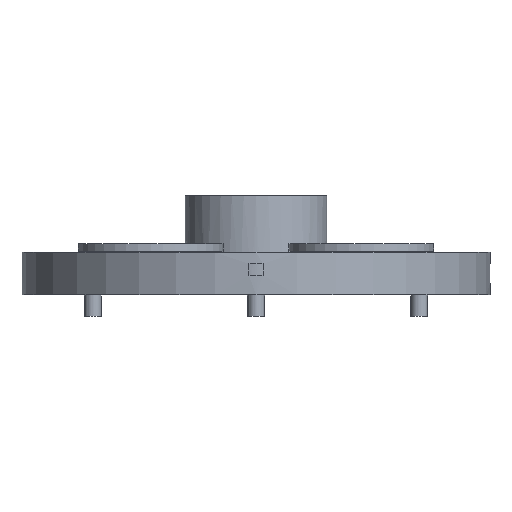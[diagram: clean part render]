
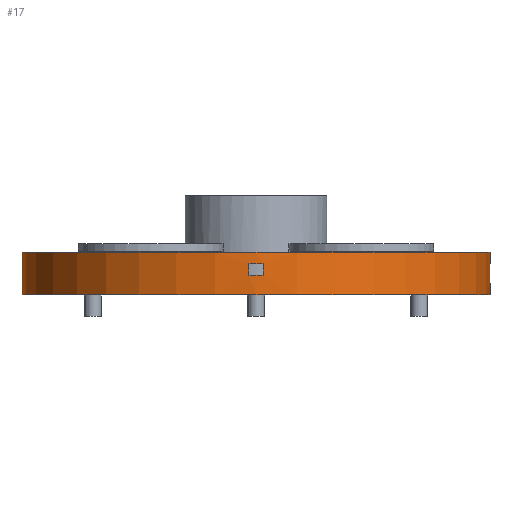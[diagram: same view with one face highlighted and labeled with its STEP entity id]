
A CAD part, front view. The second image highlights one B-rep face of the part: STEP entity #17.
In plain terms, the highlighted cylindrical face has radius 165 mm (diameter 330 mm), a full revolution.
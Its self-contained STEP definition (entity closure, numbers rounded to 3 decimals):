
#17 = ADVANCED_FACE('',(#18,#104,#140,#176,#212),#248,.T.);
#18 = FACE_BOUND('',#19,.T.);
#19 = EDGE_LOOP('',(#20,#30,#37,#38,#47,#55,#64,#72,#79,#80,#89,#97));
#20 = ORIENTED_EDGE('',*,*,#21,.T.);
#21 = EDGE_CURVE('',#22,#24,#26,.T.);
#22 = VERTEX_POINT('',#23);
#23 = CARTESIAN_POINT('',(165.,0.,22.));
#24 = VERTEX_POINT('',#25);
#25 = CARTESIAN_POINT('',(165.,0.,30.));
#26 = LINE('',#27,#28);
#27 = CARTESIAN_POINT('',(165.,0.,0.));
#28 = VECTOR('',#29,1.);
#29 = DIRECTION('',(0.,0.,1.));
#30 = ORIENTED_EDGE('',*,*,#31,.F.);
#31 = EDGE_CURVE('',#24,#24,#32,.T.);
#32 = CIRCLE('',#33,165.);
#33 = AXIS2_PLACEMENT_3D('',#34,#35,#36);
#34 = CARTESIAN_POINT('',(0.,0.,30.));
#35 = DIRECTION('',(0.,0.,1.));
#36 = DIRECTION('',(1.,0.,0.));
#37 = ORIENTED_EDGE('',*,*,#21,.F.);
#38 = ORIENTED_EDGE('',*,*,#39,.T.);
#39 = EDGE_CURVE('',#22,#40,#42,.T.);
#40 = VERTEX_POINT('',#41);
#41 = CARTESIAN_POINT('',(164.851,7.,22.));
#42 = CIRCLE('',#43,165.);
#43 = AXIS2_PLACEMENT_3D('',#44,#45,#46);
#44 = CARTESIAN_POINT('',(0.,0.,22.));
#45 = DIRECTION('',(0.,0.,1.));
#46 = DIRECTION('',(1.,0.,0.));
#47 = ORIENTED_EDGE('',*,*,#48,.F.);
#48 = EDGE_CURVE('',#49,#40,#51,.T.);
#49 = VERTEX_POINT('',#50);
#50 = CARTESIAN_POINT('',(164.851,7.,8.));
#51 = LINE('',#52,#53);
#52 = CARTESIAN_POINT('',(164.851,7.,0.));
#53 = VECTOR('',#54,1.);
#54 = DIRECTION('',(0.,0.,1.));
#55 = ORIENTED_EDGE('',*,*,#56,.F.);
#56 = EDGE_CURVE('',#57,#49,#59,.T.);
#57 = VERTEX_POINT('',#58);
#58 = CARTESIAN_POINT('',(165.,0.,8.));
#59 = CIRCLE('',#60,165.);
#60 = AXIS2_PLACEMENT_3D('',#61,#62,#63);
#61 = CARTESIAN_POINT('',(0.,0.,8.));
#62 = DIRECTION('',(0.,0.,1.));
#63 = DIRECTION('',(1.,0.,0.));
#64 = ORIENTED_EDGE('',*,*,#65,.F.);
#65 = EDGE_CURVE('',#66,#57,#68,.T.);
#66 = VERTEX_POINT('',#67);
#67 = CARTESIAN_POINT('',(165.,0.,0.));
#68 = LINE('',#69,#70);
#69 = CARTESIAN_POINT('',(165.,0.,0.));
#70 = VECTOR('',#71,1.);
#71 = DIRECTION('',(0.,0.,1.));
#72 = ORIENTED_EDGE('',*,*,#73,.T.);
#73 = EDGE_CURVE('',#66,#66,#74,.T.);
#74 = CIRCLE('',#75,165.);
#75 = AXIS2_PLACEMENT_3D('',#76,#77,#78);
#76 = CARTESIAN_POINT('',(0.,0.,0.));
#77 = DIRECTION('',(0.,0.,1.));
#78 = DIRECTION('',(1.,0.,0.));
#79 = ORIENTED_EDGE('',*,*,#65,.T.);
#80 = ORIENTED_EDGE('',*,*,#81,.F.);
#81 = EDGE_CURVE('',#82,#57,#84,.T.);
#82 = VERTEX_POINT('',#83);
#83 = CARTESIAN_POINT('',(164.851,-7.,8.));
#84 = CIRCLE('',#85,165.);
#85 = AXIS2_PLACEMENT_3D('',#86,#87,#88);
#86 = CARTESIAN_POINT('',(0.,0.,8.));
#87 = DIRECTION('',(0.,0.,1.));
#88 = DIRECTION('',(1.,0.,0.));
#89 = ORIENTED_EDGE('',*,*,#90,.T.);
#90 = EDGE_CURVE('',#82,#91,#93,.T.);
#91 = VERTEX_POINT('',#92);
#92 = CARTESIAN_POINT('',(164.851,-7.,22.));
#93 = LINE('',#94,#95);
#94 = CARTESIAN_POINT('',(164.851,-7.,0.));
#95 = VECTOR('',#96,1.);
#96 = DIRECTION('',(0.,0.,1.));
#97 = ORIENTED_EDGE('',*,*,#98,.T.);
#98 = EDGE_CURVE('',#91,#22,#99,.T.);
#99 = CIRCLE('',#100,165.);
#100 = AXIS2_PLACEMENT_3D('',#101,#102,#103);
#101 = CARTESIAN_POINT('',(0.,0.,22.));
#102 = DIRECTION('',(0.,0.,1.));
#103 = DIRECTION('',(1.,0.,0.));
#104 = FACE_BOUND('',#105,.T.);
#105 = EDGE_LOOP('',(#106,#117,#125,#134));
#106 = ORIENTED_EDGE('',*,*,#107,.F.);
#107 = EDGE_CURVE('',#108,#110,#112,.T.);
#108 = VERTEX_POINT('',#109);
#109 = CARTESIAN_POINT('',(163.287,23.715,14.));
#110 = VERTEX_POINT('',#111);
#111 = CARTESIAN_POINT('',(161.55,33.563,14.));
#112 = CIRCLE('',#113,165.);
#113 = AXIS2_PLACEMENT_3D('',#114,#115,#116);
#114 = CARTESIAN_POINT('',(0.,0.,14.));
#115 = DIRECTION('',(0.,0.,1.));
#116 = DIRECTION('',(1.,0.,0.));
#117 = ORIENTED_EDGE('',*,*,#118,.T.);
#118 = EDGE_CURVE('',#108,#119,#121,.T.);
#119 = VERTEX_POINT('',#120);
#120 = CARTESIAN_POINT('',(163.287,23.715,22.));
#121 = LINE('',#122,#123);
#122 = CARTESIAN_POINT('',(163.287,23.715,0.));
#123 = VECTOR('',#124,1.);
#124 = DIRECTION('',(0.,0.,1.));
#125 = ORIENTED_EDGE('',*,*,#126,.T.);
#126 = EDGE_CURVE('',#119,#127,#129,.T.);
#127 = VERTEX_POINT('',#128);
#128 = CARTESIAN_POINT('',(161.55,33.563,22.));
#129 = CIRCLE('',#130,165.);
#130 = AXIS2_PLACEMENT_3D('',#131,#132,#133);
#131 = CARTESIAN_POINT('',(0.,0.,22.));
#132 = DIRECTION('',(0.,0.,1.));
#133 = DIRECTION('',(1.,0.,0.));
#134 = ORIENTED_EDGE('',*,*,#135,.F.);
#135 = EDGE_CURVE('',#110,#127,#136,.T.);
#136 = LINE('',#137,#138);
#137 = CARTESIAN_POINT('',(161.55,33.563,0.));
#138 = VECTOR('',#139,1.);
#139 = DIRECTION('',(0.,0.,1.));
#140 = FACE_BOUND('',#141,.T.);
#141 = EDGE_LOOP('',(#142,#153,#161,#170));
#142 = ORIENTED_EDGE('',*,*,#143,.F.);
#143 = EDGE_CURVE('',#144,#146,#148,.T.);
#144 = VERTEX_POINT('',#145);
#145 = CARTESIAN_POINT('',(5.,164.924,14.));
#146 = VERTEX_POINT('',#147);
#147 = CARTESIAN_POINT('',(-5.,164.924,14.));
#148 = CIRCLE('',#149,165.);
#149 = AXIS2_PLACEMENT_3D('',#150,#151,#152);
#150 = CARTESIAN_POINT('',(0.,0.,14.));
#151 = DIRECTION('',(0.,0.,1.));
#152 = DIRECTION('',(1.,0.,0.));
#153 = ORIENTED_EDGE('',*,*,#154,.T.);
#154 = EDGE_CURVE('',#144,#155,#157,.T.);
#155 = VERTEX_POINT('',#156);
#156 = CARTESIAN_POINT('',(5.,164.924,22.));
#157 = LINE('',#158,#159);
#158 = CARTESIAN_POINT('',(5.,164.924,0.));
#159 = VECTOR('',#160,1.);
#160 = DIRECTION('',(0.,0.,1.));
#161 = ORIENTED_EDGE('',*,*,#162,.T.);
#162 = EDGE_CURVE('',#155,#163,#165,.T.);
#163 = VERTEX_POINT('',#164);
#164 = CARTESIAN_POINT('',(-5.,164.924,22.));
#165 = CIRCLE('',#166,165.);
#166 = AXIS2_PLACEMENT_3D('',#167,#168,#169);
#167 = CARTESIAN_POINT('',(0.,0.,22.));
#168 = DIRECTION('',(0.,0.,1.));
#169 = DIRECTION('',(1.,0.,0.));
#170 = ORIENTED_EDGE('',*,*,#171,.F.);
#171 = EDGE_CURVE('',#146,#163,#172,.T.);
#172 = LINE('',#173,#174);
#173 = CARTESIAN_POINT('',(-5.,164.924,0.));
#174 = VECTOR('',#175,1.);
#175 = DIRECTION('',(0.,0.,1.));
#176 = FACE_BOUND('',#177,.T.);
#177 = EDGE_LOOP('',(#178,#189,#197,#206));
#178 = ORIENTED_EDGE('',*,*,#179,.F.);
#179 = EDGE_CURVE('',#180,#182,#184,.T.);
#180 = VERTEX_POINT('',#181);
#181 = CARTESIAN_POINT('',(-164.924,5.,14.));
#182 = VERTEX_POINT('',#183);
#183 = CARTESIAN_POINT('',(-164.924,-5.,14.));
#184 = CIRCLE('',#185,165.);
#185 = AXIS2_PLACEMENT_3D('',#186,#187,#188);
#186 = CARTESIAN_POINT('',(0.,0.,14.));
#187 = DIRECTION('',(0.,0.,1.));
#188 = DIRECTION('',(1.,0.,0.));
#189 = ORIENTED_EDGE('',*,*,#190,.T.);
#190 = EDGE_CURVE('',#180,#191,#193,.T.);
#191 = VERTEX_POINT('',#192);
#192 = CARTESIAN_POINT('',(-164.924,5.,22.));
#193 = LINE('',#194,#195);
#194 = CARTESIAN_POINT('',(-164.924,5.,0.));
#195 = VECTOR('',#196,1.);
#196 = DIRECTION('',(0.,0.,1.));
#197 = ORIENTED_EDGE('',*,*,#198,.T.);
#198 = EDGE_CURVE('',#191,#199,#201,.T.);
#199 = VERTEX_POINT('',#200);
#200 = CARTESIAN_POINT('',(-164.924,-5.,22.));
#201 = CIRCLE('',#202,165.);
#202 = AXIS2_PLACEMENT_3D('',#203,#204,#205);
#203 = CARTESIAN_POINT('',(0.,0.,22.));
#204 = DIRECTION('',(0.,0.,1.));
#205 = DIRECTION('',(1.,0.,0.));
#206 = ORIENTED_EDGE('',*,*,#207,.F.);
#207 = EDGE_CURVE('',#182,#199,#208,.T.);
#208 = LINE('',#209,#210);
#209 = CARTESIAN_POINT('',(-164.924,-5.,0.));
#210 = VECTOR('',#211,1.);
#211 = DIRECTION('',(0.,0.,1.));
#212 = FACE_BOUND('',#213,.T.);
#213 = EDGE_LOOP('',(#214,#225,#233,#242));
#214 = ORIENTED_EDGE('',*,*,#215,.F.);
#215 = EDGE_CURVE('',#216,#218,#220,.T.);
#216 = VERTEX_POINT('',#217);
#217 = CARTESIAN_POINT('',(-5.,-164.924,14.));
#218 = VERTEX_POINT('',#219);
#219 = CARTESIAN_POINT('',(5.,-164.924,14.));
#220 = CIRCLE('',#221,165.);
#221 = AXIS2_PLACEMENT_3D('',#222,#223,#224);
#222 = CARTESIAN_POINT('',(0.,0.,14.));
#223 = DIRECTION('',(0.,0.,1.));
#224 = DIRECTION('',(1.,0.,0.));
#225 = ORIENTED_EDGE('',*,*,#226,.T.);
#226 = EDGE_CURVE('',#216,#227,#229,.T.);
#227 = VERTEX_POINT('',#228);
#228 = CARTESIAN_POINT('',(-5.,-164.924,22.));
#229 = LINE('',#230,#231);
#230 = CARTESIAN_POINT('',(-5.,-164.924,0.));
#231 = VECTOR('',#232,1.);
#232 = DIRECTION('',(0.,0.,1.));
#233 = ORIENTED_EDGE('',*,*,#234,.T.);
#234 = EDGE_CURVE('',#227,#235,#237,.T.);
#235 = VERTEX_POINT('',#236);
#236 = CARTESIAN_POINT('',(5.,-164.924,22.));
#237 = CIRCLE('',#238,165.);
#238 = AXIS2_PLACEMENT_3D('',#239,#240,#241);
#239 = CARTESIAN_POINT('',(0.,0.,22.));
#240 = DIRECTION('',(0.,0.,1.));
#241 = DIRECTION('',(1.,0.,0.));
#242 = ORIENTED_EDGE('',*,*,#243,.F.);
#243 = EDGE_CURVE('',#218,#235,#244,.T.);
#244 = LINE('',#245,#246);
#245 = CARTESIAN_POINT('',(5.,-164.924,0.));
#246 = VECTOR('',#247,1.);
#247 = DIRECTION('',(0.,0.,1.));
#248 = CYLINDRICAL_SURFACE('',#249,165.);
#249 = AXIS2_PLACEMENT_3D('',#250,#251,#252);
#250 = CARTESIAN_POINT('',(0.,0.,0.));
#251 = DIRECTION('',(0.,0.,1.));
#252 = DIRECTION('',(1.,0.,0.));
